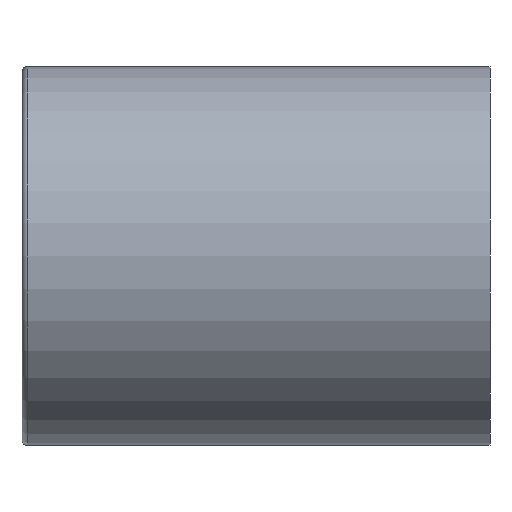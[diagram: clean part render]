
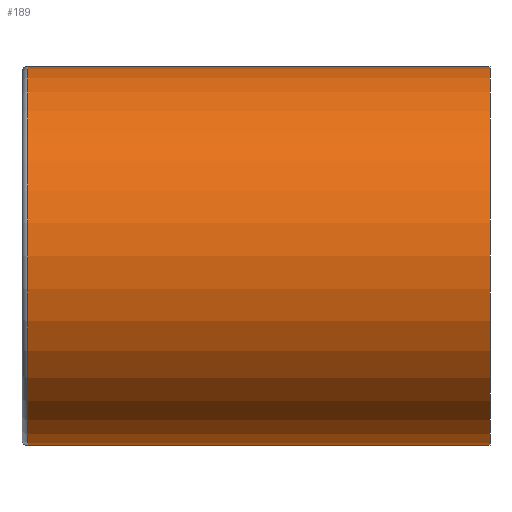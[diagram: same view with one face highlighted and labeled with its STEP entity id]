
A CAD part, left-side view. The second image highlights one B-rep face of the part: STEP entity #189.
In plain terms, the highlighted cylindrical face has radius 34 mm (diameter 68 mm), a partial arc.
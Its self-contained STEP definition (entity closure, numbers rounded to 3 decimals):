
#7 = VERTEX_POINT ( 'NONE', #248 ) ;
#10 = CARTESIAN_POINT ( 'NONE',  ( 0., 83., 0. ) ) ;
#23 = DIRECTION ( 'NONE',  ( 0., -1., 0. ) ) ;
#32 = DIRECTION ( 'NONE',  ( 0., -1., 0. ) ) ;
#51 = EDGE_CURVE ( 'NONE', #376, #7, #510, .T. ) ;
#100 = LINE ( 'NONE', #531, #242 ) ;
#111 = CARTESIAN_POINT ( 'NONE',  ( 0., 0., -34. ) ) ;
#132 = ORIENTED_EDGE ( 'NONE', *, *, #51, .T. ) ;
#145 = CARTESIAN_POINT ( 'NONE',  ( 0., 0., 0. ) ) ;
#161 = DIRECTION ( 'NONE',  ( 0., 0., -1. ) ) ;
#174 = CARTESIAN_POINT ( 'NONE',  ( 0., 85., 0. ) ) ;
#176 = VECTOR ( 'NONE', #32, 1000. ) ;
#181 = VERTEX_POINT ( 'NONE', #362 ) ;
#189 = ADVANCED_FACE ( 'NONE', ( #232 ), #290, .T. ) ;
#232 = FACE_OUTER_BOUND ( 'NONE', #246, .T. ) ;
#233 = DIRECTION ( 'NONE',  ( 0., 1., 0. ) ) ;
#242 = VECTOR ( 'NONE', #275, 1000. ) ;
#246 = EDGE_LOOP ( 'NONE', ( #429, #132, #293, #475 ) ) ;
#248 = CARTESIAN_POINT ( 'NONE',  ( 0., 83., -34. ) ) ;
#260 = DIRECTION ( 'NONE',  ( 0., -1., 0. ) ) ;
#263 = AXIS2_PLACEMENT_3D ( 'NONE', #174, #23, #483 ) ;
#275 = DIRECTION ( 'NONE',  ( 0., -1., 0. ) ) ;
#279 = CARTESIAN_POINT ( 'NONE',  ( 0., 83., 34. ) ) ;
#290 = CYLINDRICAL_SURFACE ( 'NONE', #263, 34. ) ;
#293 = ORIENTED_EDGE ( 'NONE', *, *, #373, .T. ) ;
#297 = LINE ( 'NONE', #374, #176 ) ;
#313 = DIRECTION ( 'NONE',  ( 0., 0., 1. ) ) ;
#328 = EDGE_CURVE ( 'NONE', #403, #181, #440, .T. ) ;
#362 = CARTESIAN_POINT ( 'NONE',  ( 0., 0., 34. ) ) ;
#369 = EDGE_CURVE ( 'NONE', #376, #181, #100, .T. ) ;
#373 = EDGE_CURVE ( 'NONE', #7, #403, #297, .T. ) ;
#374 = CARTESIAN_POINT ( 'NONE',  ( 0., 85., -34. ) ) ;
#376 = VERTEX_POINT ( 'NONE', #279 ) ;
#390 = AXIS2_PLACEMENT_3D ( 'NONE', #10, #260, #161 ) ;
#403 = VERTEX_POINT ( 'NONE', #111 ) ;
#409 = AXIS2_PLACEMENT_3D ( 'NONE', #145, #233, #313 ) ;
#429 = ORIENTED_EDGE ( 'NONE', *, *, #369, .F. ) ;
#440 = CIRCLE ( 'NONE', #409, 34. ) ;
#475 = ORIENTED_EDGE ( 'NONE', *, *, #328, .T. ) ;
#483 = DIRECTION ( 'NONE',  ( 0., 0., -1. ) ) ;
#510 = CIRCLE ( 'NONE', #390, 34. ) ;
#531 = CARTESIAN_POINT ( 'NONE',  ( 0., 85., 34. ) ) ;
